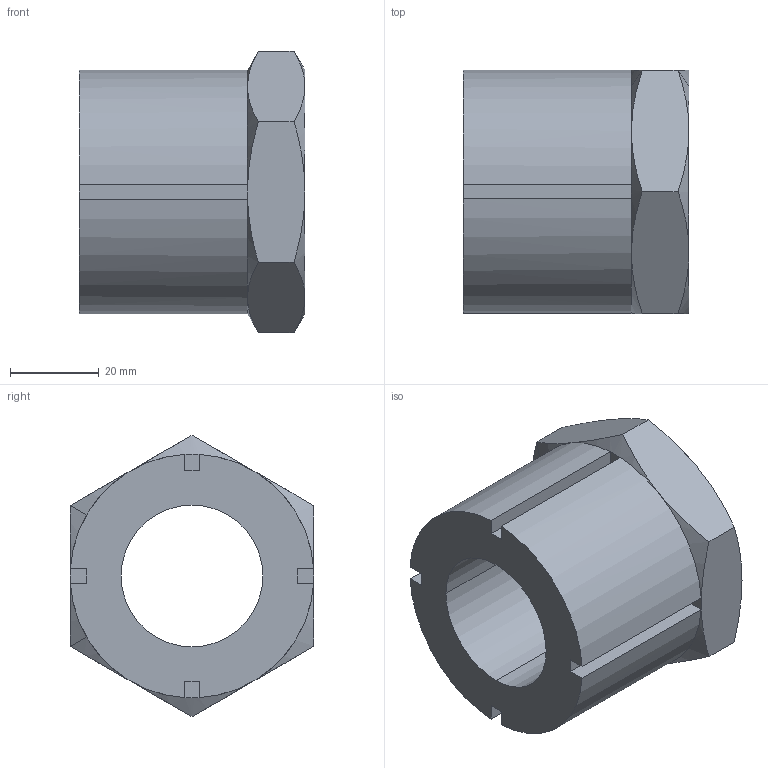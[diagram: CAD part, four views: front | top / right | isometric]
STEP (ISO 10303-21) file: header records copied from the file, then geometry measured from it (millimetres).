
FILE_DESCRIPTION((''),'2;1');
FILE_NAME('C:\WIXROYD\Positioning\3840\3840W032.stp','2003-01-09T15:39:36',('Administrator'),(''),'Autodesk Inventor (tm) 5.0','Autodesk Inventor (tm) 5.0','');
FILE_SCHEMA(('CONFIG_CONTROL_DESIGN'));
Length unit declared in the file: millimetre
Products named in the file (1): 3840W032
Bounding box: 51 x 55 x 63.51 mm (x, y, z)
Volume: 81168 mm3; surface area: 18665.6 mm2
Topology: 1 solids, 1 shells, 48 faces, 114 edges, 68 vertices
Faces by surface type: plane 24, cone 16, cylinder 8
Entity records: 1437 total; most frequent: CARTESIAN_POINT 279, ORIENTED_EDGE 228, DIRECTION 224, EDGE_CURVE 114, AXIS2_PLACEMENT_3D 85, VERTEX_POINT 68, VECTOR 54, LINE 54
